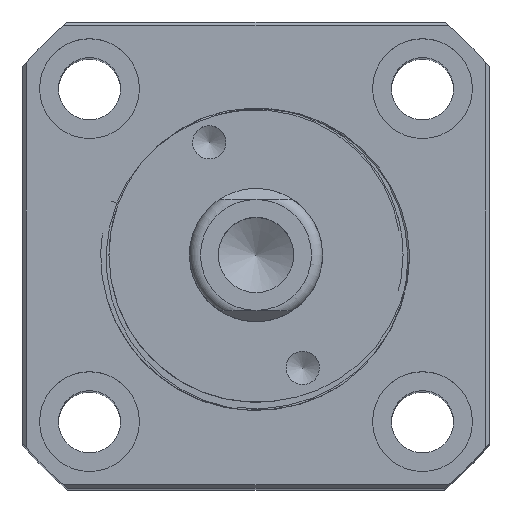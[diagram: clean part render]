
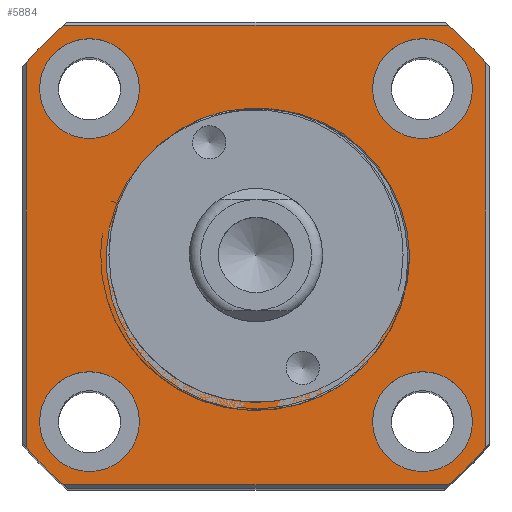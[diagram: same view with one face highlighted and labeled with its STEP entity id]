
A CAD part, top view. The second image highlights one B-rep face of the part: STEP entity #5884.
In plain terms, the highlighted planar face has unit normal (0, 0, 1).
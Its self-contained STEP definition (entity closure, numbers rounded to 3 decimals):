
#2897=LINE('',#17699,#3753);
#2898=LINE('',#17704,#3754);
#2899=LINE('',#17708,#3755);
#2900=LINE('',#17712,#3756);
#3753=VECTOR('',#12629,1.);
#3754=VECTOR('',#12632,1.);
#3755=VECTOR('',#12635,1.);
#3756=VECTOR('',#12638,1.);
#4716=PLANE('',#12058);
#5495=B_SPLINE_CURVE_WITH_KNOTS('',3,(#17686,#17687,#17688,#17689,#17690,
#17691),.UNSPECIFIED.,.F.,.F.,(4,2,4),(0.,0.5,1.),.UNSPECIFIED.);
#5496=B_SPLINE_CURVE_WITH_KNOTS('',3,(#17693,#17694,#17695,#17696,#17697,
#17698),.UNSPECIFIED.,.F.,.F.,(4,2,4),(0.,0.5,1.),.UNSPECIFIED.);
#5884=ADVANCED_FACE('',(#6430,#6431,#6432,#6433,#6434,#6435),#4716,.T.);
#6430=FACE_BOUND('',#6647,.T.);
#6431=FACE_BOUND('',#6648,.T.);
#6432=FACE_BOUND('',#6649,.T.);
#6433=FACE_BOUND('',#6650,.T.);
#6434=FACE_BOUND('',#6651,.T.);
#6435=FACE_BOUND('',#6652,.T.);
#6647=EDGE_LOOP('',(#7349));
#6648=EDGE_LOOP('',(#7350));
#6649=EDGE_LOOP('',(#7351));
#6650=EDGE_LOOP('',(#7352));
#6651=EDGE_LOOP('',(#7353,#7354,#7355));
#6652=EDGE_LOOP('',(#7356,#7357,#7358,#7359,#7360,#7361,#7362,#7363));
#7349=ORIENTED_EDGE('',*,*,#10668,.F.);
#7350=ORIENTED_EDGE('',*,*,#10670,.F.);
#7351=ORIENTED_EDGE('',*,*,#10672,.F.);
#7352=ORIENTED_EDGE('',*,*,#10674,.F.);
#7353=ORIENTED_EDGE('',*,*,#10704,.F.);
#7354=ORIENTED_EDGE('',*,*,#10726,.T.);
#7355=ORIENTED_EDGE('',*,*,#10727,.T.);
#7356=ORIENTED_EDGE('',*,*,#10728,.T.);
#7357=ORIENTED_EDGE('',*,*,#10729,.T.);
#7358=ORIENTED_EDGE('',*,*,#10730,.T.);
#7359=ORIENTED_EDGE('',*,*,#10731,.T.);
#7360=ORIENTED_EDGE('',*,*,#10732,.T.);
#7361=ORIENTED_EDGE('',*,*,#10733,.T.);
#7362=ORIENTED_EDGE('',*,*,#10734,.T.);
#7363=ORIENTED_EDGE('',*,*,#10735,.T.);
#9773=VERTEX_POINT('',#17260);
#9775=VERTEX_POINT('',#17265);
#9777=VERTEX_POINT('',#17270);
#9779=VERTEX_POINT('',#17275);
#9809=VERTEX_POINT('',#17493);
#9810=VERTEX_POINT('',#17495);
#9831=VERTEX_POINT('',#17692);
#9832=VERTEX_POINT('',#17700);
#9833=VERTEX_POINT('',#17701);
#9834=VERTEX_POINT('',#17703);
#9835=VERTEX_POINT('',#17705);
#9836=VERTEX_POINT('',#17707);
#9837=VERTEX_POINT('',#17709);
#9838=VERTEX_POINT('',#17711);
#9839=VERTEX_POINT('',#17713);
#10668=EDGE_CURVE('',#9773,#9773,#11899,.T.);
#10670=EDGE_CURVE('',#9775,#9775,#11901,.T.);
#10672=EDGE_CURVE('',#9777,#9777,#11903,.T.);
#10674=EDGE_CURVE('',#9779,#9779,#11905,.T.);
#10704=EDGE_CURVE('',#9809,#9810,#11915,.T.);
#10726=EDGE_CURVE('',#9809,#9831,#5495,.T.);
#10727=EDGE_CURVE('',#9831,#9810,#5496,.T.);
#10728=EDGE_CURVE('',#9832,#9833,#2897,.T.);
#10729=EDGE_CURVE('',#9833,#9834,#11917,.T.);
#10730=EDGE_CURVE('',#9834,#9835,#2898,.T.);
#10731=EDGE_CURVE('',#9835,#9836,#11918,.T.);
#10732=EDGE_CURVE('',#9836,#9837,#2899,.T.);
#10733=EDGE_CURVE('',#9837,#9838,#11919,.T.);
#10734=EDGE_CURVE('',#9838,#9839,#2900,.T.);
#10735=EDGE_CURVE('',#9839,#9832,#11920,.T.);
#11899=CIRCLE('',#12027,4.5);
#11901=CIRCLE('',#12030,4.5);
#11903=CIRCLE('',#12033,4.5);
#11905=CIRCLE('',#12036,4.5);
#11915=CIRCLE('',#12051,13.25);
#11917=CIRCLE('',#12054,27.);
#11918=CIRCLE('',#12055,27.);
#11919=CIRCLE('',#12056,27.);
#11920=CIRCLE('',#12057,27.);
#12027=AXIS2_PLACEMENT_3D('',#17259,#12574,#12575);
#12030=AXIS2_PLACEMENT_3D('',#17264,#12580,#12581);
#12033=AXIS2_PLACEMENT_3D('',#17269,#12586,#12587);
#12036=AXIS2_PLACEMENT_3D('',#17274,#12592,#12593);
#12051=AXIS2_PLACEMENT_3D('',#17494,#12622,#12623);
#12054=AXIS2_PLACEMENT_3D('',#17702,#12630,#12631);
#12055=AXIS2_PLACEMENT_3D('',#17706,#12633,#12634);
#12056=AXIS2_PLACEMENT_3D('',#17710,#12636,#12637);
#12057=AXIS2_PLACEMENT_3D('',#17714,#12639,#12640);
#12058=AXIS2_PLACEMENT_3D('',#17715,#12641,#12642);
#12574=DIRECTION('',(0.,0.,1.));
#12575=DIRECTION('',(1.,0.,0.));
#12580=DIRECTION('',(0.,0.,1.));
#12581=DIRECTION('',(1.,0.,0.));
#12586=DIRECTION('',(0.,0.,1.));
#12587=DIRECTION('',(1.,0.,0.));
#12592=DIRECTION('',(0.,0.,1.));
#12593=DIRECTION('',(1.,0.,0.));
#12622=DIRECTION('',(0.,0.,1.));
#12623=DIRECTION('',(1.,0.,0.));
#12629=DIRECTION('',(0.,1.,0.));
#12630=DIRECTION('',(0.,0.,1.));
#12631=DIRECTION('',(1.,0.,0.));
#12632=DIRECTION('',(-1.,0.,0.));
#12633=DIRECTION('',(0.,0.,1.));
#12634=DIRECTION('',(1.,0.,0.));
#12635=DIRECTION('',(0.,-1.,0.));
#12636=DIRECTION('',(0.,0.,1.));
#12637=DIRECTION('',(1.,0.,0.));
#12638=DIRECTION('',(1.,0.,0.));
#12639=DIRECTION('',(0.,0.,1.));
#12640=DIRECTION('',(1.,0.,0.));
#12641=DIRECTION('',(0.,0.,1.));
#12642=DIRECTION('',(-1.,0.,0.));
#17259=CARTESIAN_POINT('',(-27.738,-0.249,42.985));
#17260=CARTESIAN_POINT('',(-23.238,-0.249,42.985));
#17264=CARTESIAN_POINT('',(2.262,-0.249,42.985));
#17265=CARTESIAN_POINT('',(6.762,-0.249,42.985));
#17269=CARTESIAN_POINT('',(2.262,29.751,42.985));
#17270=CARTESIAN_POINT('',(6.762,29.751,42.985));
#17274=CARTESIAN_POINT('',(-27.738,29.751,42.985));
#17275=CARTESIAN_POINT('',(-23.238,29.751,42.985));
#17493=CARTESIAN_POINT('',(-11.009,27.888,42.985));
#17494=CARTESIAN_POINT('',(-12.738,14.751,42.985));
#17495=CARTESIAN_POINT('',(-11.009,1.615,42.985));
#17686=CARTESIAN_POINT('',(-11.009,27.888,42.985));
#17687=CARTESIAN_POINT('',(-7.746,27.561,42.985));
#17688=CARTESIAN_POINT('',(-4.664,25.99,42.985));
#17689=CARTESIAN_POINT('',(-0.294,21.221,42.985));
#17690=CARTESIAN_POINT('',(1.016,18.028,42.985));
#17691=CARTESIAN_POINT('',(1.109,14.751,42.985));
#17692=CARTESIAN_POINT('',(1.109,14.751,42.985));
#17693=CARTESIAN_POINT('',(1.109,14.751,42.985));
#17694=CARTESIAN_POINT('',(1.016,11.474,42.985));
#17695=CARTESIAN_POINT('',(-0.296,8.279,42.985));
#17696=CARTESIAN_POINT('',(-4.664,3.513,42.985));
#17697=CARTESIAN_POINT('',(-7.746,1.942,42.985));
#17698=CARTESIAN_POINT('',(-11.009,1.615,42.985));
#17699=CARTESIAN_POINT('',(7.962,35.751,42.985));
#17700=CARTESIAN_POINT('',(7.962,-2.584,42.985));
#17701=CARTESIAN_POINT('',(7.962,32.087,42.985));
#17702=CARTESIAN_POINT('',(-12.738,14.751,42.985));
#17703=CARTESIAN_POINT('',(4.597,35.451,42.985));
#17704=CARTESIAN_POINT('',(-33.738,35.451,42.985));
#17705=CARTESIAN_POINT('',(-30.073,35.451,42.985));
#17706=CARTESIAN_POINT('',(-12.738,14.751,42.985));
#17707=CARTESIAN_POINT('',(-33.438,32.087,42.985));
#17708=CARTESIAN_POINT('',(-33.438,-6.249,42.985));
#17709=CARTESIAN_POINT('',(-33.438,-2.584,42.985));
#17710=CARTESIAN_POINT('',(-12.738,14.751,42.985));
#17711=CARTESIAN_POINT('',(-30.073,-5.949,42.985));
#17712=CARTESIAN_POINT('',(8.262,-5.949,42.985));
#17713=CARTESIAN_POINT('',(4.597,-5.949,42.985));
#17714=CARTESIAN_POINT('',(-12.738,14.751,42.985));
#17715=CARTESIAN_POINT('',(-12.738,14.751,42.985));
